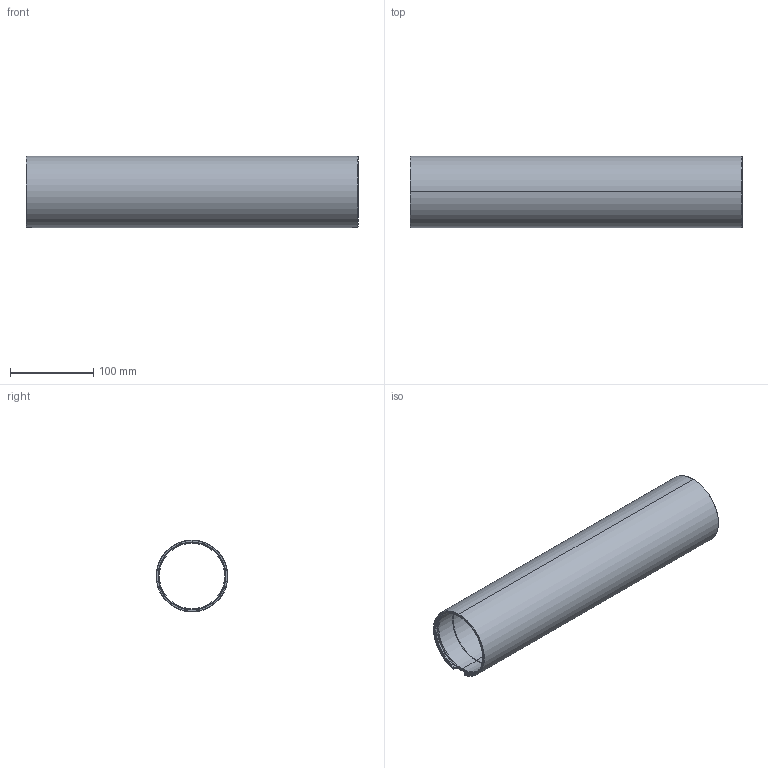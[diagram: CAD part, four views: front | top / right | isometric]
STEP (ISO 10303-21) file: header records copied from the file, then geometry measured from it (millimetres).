
FILE_DESCRIPTION (( 'STEP AP203' ), '1' );
FILE_NAME ('BR-106278-400_RevA.step', '2026-01-13T23:24:11', ( '' ), ( '' ), 'SwSTEP 2.0', 'SolidWorks 2024', '' );
FILE_SCHEMA (( 'CONFIG_CONTROL_DESIGN' ));
Length unit declared in the file: millimetre
Products named in the file (1): BR-106278-400
Bounding box: 400 x 86.48 x 86.5 mm (x, y, z)
Volume: 377529.4 mm3; surface area: 209586 mm2
Topology: 1 solids, 1 shells, 86 faces, 224 edges, 140 vertices
Faces by surface type: bspline 24, cylinder 22, cone 14, plane 14, torus 12
Entity records: 5752 total; most frequent: CARTESIAN_POINT 3834, ORIENTED_EDGE 448, DIRECTION 294, EDGE_CURVE 224, VERTEX_POINT 140, AXIS2_PLACEMENT_3D 127, B_SPLINE_CURVE_WITH_KNOTS 116, EDGE_LOOP 88
